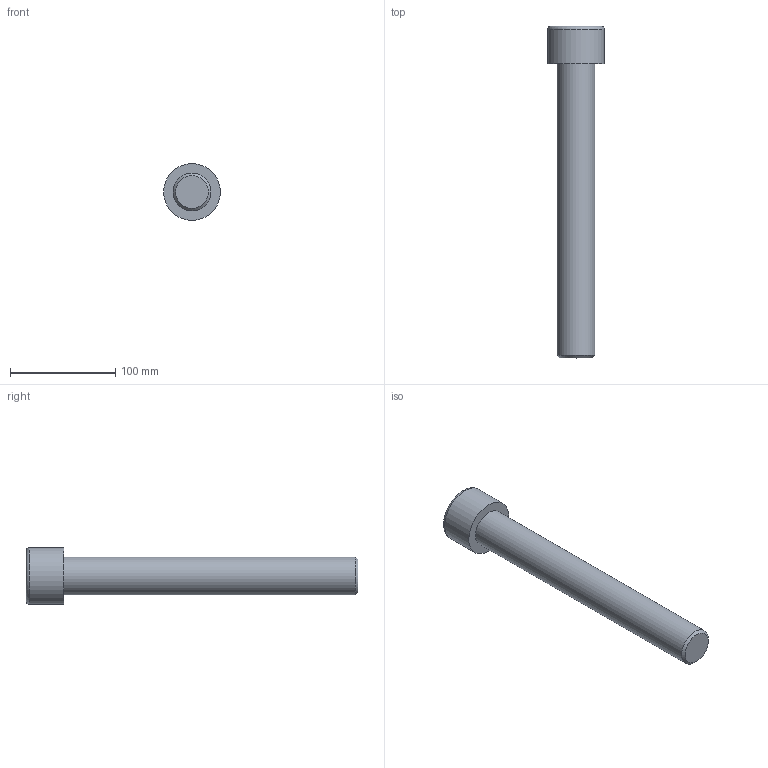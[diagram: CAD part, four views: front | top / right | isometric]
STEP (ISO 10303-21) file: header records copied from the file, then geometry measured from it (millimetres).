
FILE_DESCRIPTION(/* description */ (''),/* implementation_level */ '2;1');
FILE_NAME(/* name */ 'C:\Users\D\Documents\Inventor\各種小物\JIS\JIS B 1176 六角穴付きボルト\M36x280.stp',/* time_stamp */ '2022-05-09T19:03:52+09:00',/* author */ ('D'),/* organization */ (''),/* preprocessor_version */ 'ST-DEVELOPER v18',/* originating_system */ 'Autodesk Inventor 2020',/* authorisation */ '');
FILE_SCHEMA (('AUTOMOTIVE_DESIGN { 1 0 10303 214 3 1 1 }'));
Length unit declared in the file: millimetre
Products named in the file (1): M1.6x2.5
Bounding box: 54 x 316 x 54 mm (x, y, z)
Volume: 352448.7 mm3; surface area: 43865.8 mm2
Topology: 1 solids, 1 shells, 14 faces, 33 edges, 22 vertices
Faces by surface type: plane 9, cone 2, cylinder 2, torus 1
Full cylindrical faces by diameter (mm): 36 x1, 54 x1
Entity records: 435 total; most frequent: CARTESIAN_POINT 83, ORIENTED_EDGE 64, DIRECTION 64, EDGE_CURVE 32, AXIS2_PLACEMENT_3D 24, VERTEX_POINT 22, EDGE_LOOP 16, LINE 16
